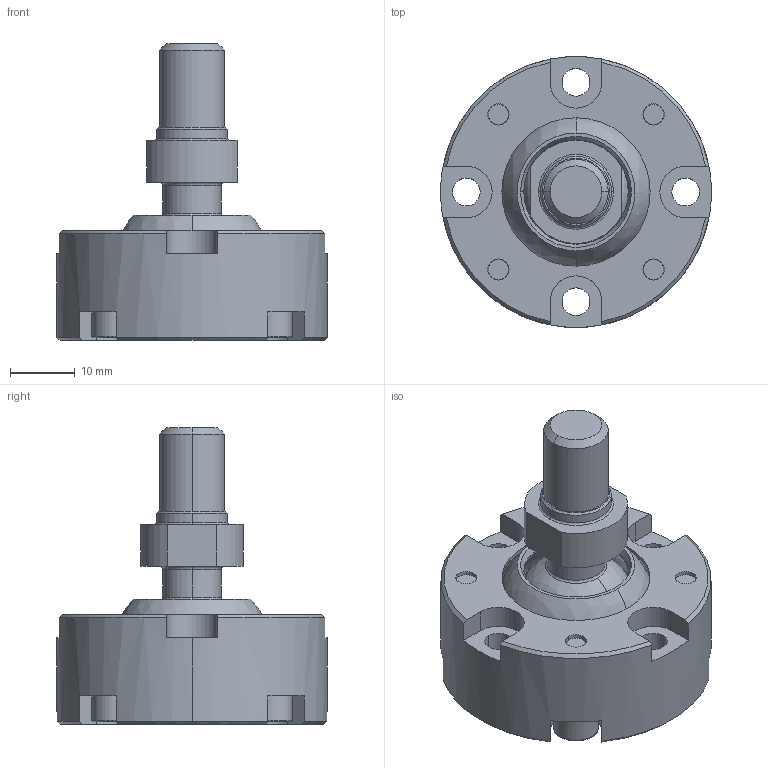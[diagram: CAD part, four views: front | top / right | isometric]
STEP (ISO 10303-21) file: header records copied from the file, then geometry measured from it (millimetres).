
FILE_DESCRIPTION (( 'STEP AP203' ), '1' );
FILE_NAME ('SRJ012CP.STEP', '2023-03-30T08:37:51', ( '' ), ( '' ), 'SwSTEP 2.0', 'SolidWorks 2023', '' );
FILE_SCHEMA (( 'CONFIG_CONTROL_DESIGN' ));
Length unit declared in the file: millimetre
Products named in the file (1): SRJ012CP
Bounding box: 42 x 41.91 x 46 mm (x, y, z)
Volume: 22750.6 mm3; surface area: 13339.7 mm2
Topology: 7 solids, 7 shells, 227 faces, 556 edges, 342 vertices
Faces by surface type: plane 98, cylinder 66, cone 33, torus 22, sphere 8
Entity records: 6618 total; most frequent: DIRECTION 1231, CARTESIAN_POINT 1134, ORIENTED_EDGE 1056, EDGE_CURVE 528, AXIS2_PLACEMENT_3D 491, VERTEX_POINT 330, CIRCLE 263, EDGE_LOOP 262
